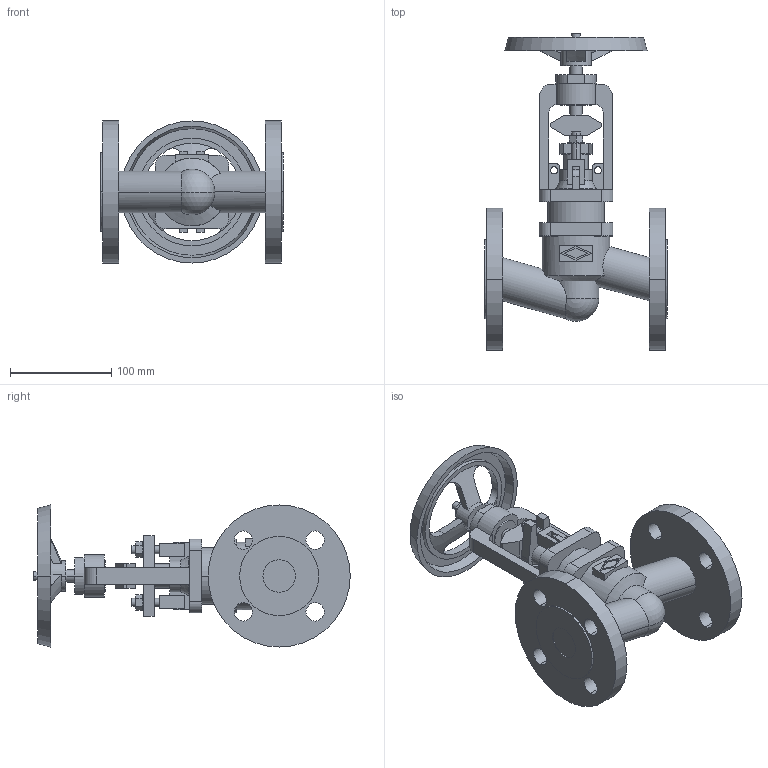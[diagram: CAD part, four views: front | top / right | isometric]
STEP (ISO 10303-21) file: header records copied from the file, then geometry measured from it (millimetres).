
FILE_DESCRIPTION(('OneSpaceDesigner STEP Export'),'2;1');
FILE_NAME('c000003760.stp','2009-06-16T11:00:39',(''),(''),'OneSpace Designer STEP processor for AP214 (Solid Model)','OneSpace Modeling 15.50B 03-Nov-2007 (C) CoCreate Software GmbH','');
FILE_SCHEMA(('AUTOMOTIVE_DESIGN { 1 0 10303 214 1 1 1 1 }'));
Length unit declared in the file: millimetre
Products named in the file (1): 1
Bounding box: 180 x 311.8 x 140 mm (x, y, z)
Volume: 1226305.9 mm3; surface area: 199698.5 mm2
Topology: 1 solids, 1 shells, 283 faces, 741 edges, 486 vertices
Faces by surface type: plane 148, cylinder 109, cone 20, torus 4, sphere 2
Entity records: 10874 total; most frequent: CARTESIAN_POINT 1952, ORIENTED_EDGE 1478, DIRECTION 1241, EDGE_CURVE 739, VERTEX_POINT 486, VECTOR 433, LINE 433, AXIS2_PLACEMENT_3D 404
